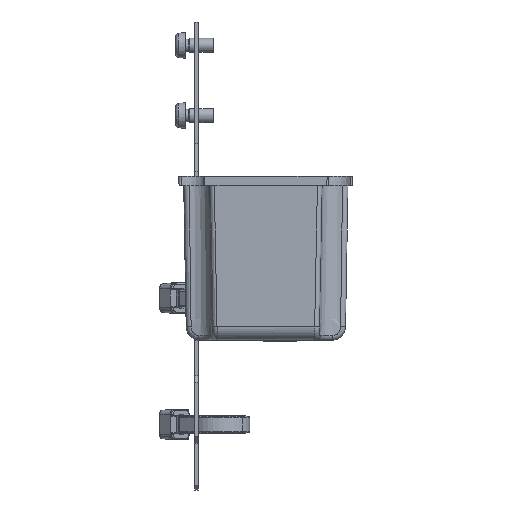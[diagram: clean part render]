
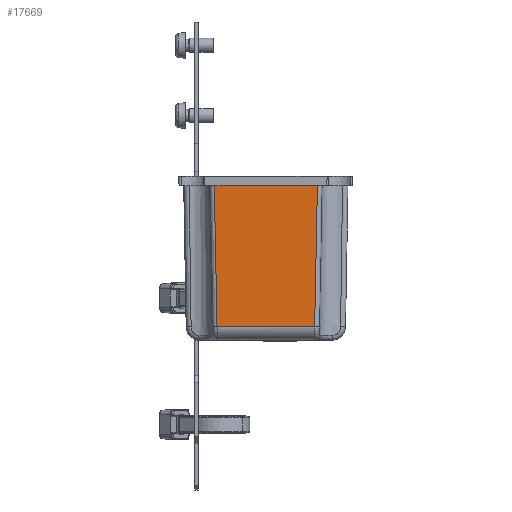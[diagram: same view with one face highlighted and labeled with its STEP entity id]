
A CAD part, left-side view. The second image highlights one B-rep face of the part: STEP entity #17669.
In plain terms, the highlighted planar face has unit normal (-1, 0, -0.018) as drawn and (1, 0, 0.017) by its records, which use the part's own axes.
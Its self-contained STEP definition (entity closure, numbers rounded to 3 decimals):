
#149 = CARTESIAN_POINT ( 'NONE',  ( 35.775, -10.432, 32.052 ) ) ;
#313 = EDGE_LOOP ( 'NONE', ( #3978, #13373, #20568, #8145 ) ) ;
#455 = B_SPLINE_CURVE_WITH_KNOTS ( 'NONE', 3,
 ( #1898, #13919, #22182, #4489 ),
 .UNSPECIFIED., .F., .F.,
 ( 4, 4 ),
 ( 0., 0.03 ),
 .UNSPECIFIED. ) ;
#1217 = DIRECTION ( 'NONE',  ( 1., 0., 0.017 ) ) ;
#1898 = CARTESIAN_POINT ( 'NONE',  ( 36.299, 11.016, 2. ) ) ;
#2606 = VERTEX_POINT ( 'NONE', #12711 ) ;
#2807 = CARTESIAN_POINT ( 'NONE',  ( 36.299, -11.016, 2. ) ) ;
#3978 = ORIENTED_EDGE ( 'NONE', *, *, #5293, .T. ) ;
#4489 = CARTESIAN_POINT ( 'NONE',  ( 35.775, 10.432, 32.052 ) ) ;
#5024 = CARTESIAN_POINT ( 'NONE',  ( 35.775, -10.432, 32.052 ) ) ;
#5129 = VERTEX_POINT ( 'NONE', #9090 ) ;
#5134 = VECTOR ( 'NONE', #14498, 1000. ) ;
#5293 = EDGE_CURVE ( 'NONE', #5129, #12515, #18364, .T. ) ;
#5761 = LINE ( 'NONE', #11690, #7219 ) ;
#7070 = CARTESIAN_POINT ( 'NONE',  ( 35.949, -10.616, 22.035 ) ) ;
#7172 = DIRECTION ( 'NONE',  ( 0.017, 0., -1. ) ) ;
#7219 = VECTOR ( 'NONE', #13763, 1000. ) ;
#8145 = ORIENTED_EDGE ( 'NONE', *, *, #19536, .T. ) ;
#8632 = EDGE_CURVE ( 'NONE', #24362, #2606, #5761, .T. ) ;
#8749 = CARTESIAN_POINT ( 'NONE',  ( 36.124, -10.809, 12.017 ) ) ;
#9090 = CARTESIAN_POINT ( 'NONE',  ( 35.775, 10.432, 32.052 ) ) ;
#10494 = B_SPLINE_CURVE_WITH_KNOTS ( 'NONE', 3,
 ( #5024, #7070, #8749, #2807 ),
 .UNSPECIFIED., .F., .F.,
 ( 4, 4 ),
 ( 0., 0.03 ),
 .UNSPECIFIED. ) ;
#11690 = CARTESIAN_POINT ( 'NONE',  ( 36.299, 0., 2. ) ) ;
#12515 = VERTEX_POINT ( 'NONE', #149 ) ;
#12711 = CARTESIAN_POINT ( 'NONE',  ( 36.299, 11.016, 2. ) ) ;
#13373 = ORIENTED_EDGE ( 'NONE', *, *, #24229, .T. ) ;
#13529 = CARTESIAN_POINT ( 'NONE',  ( 36.299, -11.016, 2. ) ) ;
#13763 = DIRECTION ( 'NONE',  ( 0., 1., 0. ) ) ;
#13919 = CARTESIAN_POINT ( 'NONE',  ( 36.124, 10.809, 12.017 ) ) ;
#14498 = DIRECTION ( 'NONE',  ( 0., -1., 0. ) ) ;
#14936 = CARTESIAN_POINT ( 'NONE',  ( 36.334, 0., 0. ) ) ;
#15450 = FACE_OUTER_BOUND ( 'NONE', #313, .T. ) ;
#17669 = ADVANCED_FACE ( 'NONE', ( #15450 ), #23327, .T. ) ;
#18364 = LINE ( 'NONE', #20558, #5134 ) ;
#18924 = AXIS2_PLACEMENT_3D ( 'NONE', #14936, #1217, #7172 ) ;
#19536 = EDGE_CURVE ( 'NONE', #2606, #5129, #455, .T. ) ;
#20558 = CARTESIAN_POINT ( 'NONE',  ( 35.775, -11.547, 32.052 ) ) ;
#20568 = ORIENTED_EDGE ( 'NONE', *, *, #8632, .T. ) ;
#22182 = CARTESIAN_POINT ( 'NONE',  ( 35.949, 10.616, 22.035 ) ) ;
#23327 = PLANE ( 'NONE',  #18924 ) ;
#24229 = EDGE_CURVE ( 'NONE', #12515, #24362, #10494, .T. ) ;
#24362 = VERTEX_POINT ( 'NONE', #13529 ) ;
